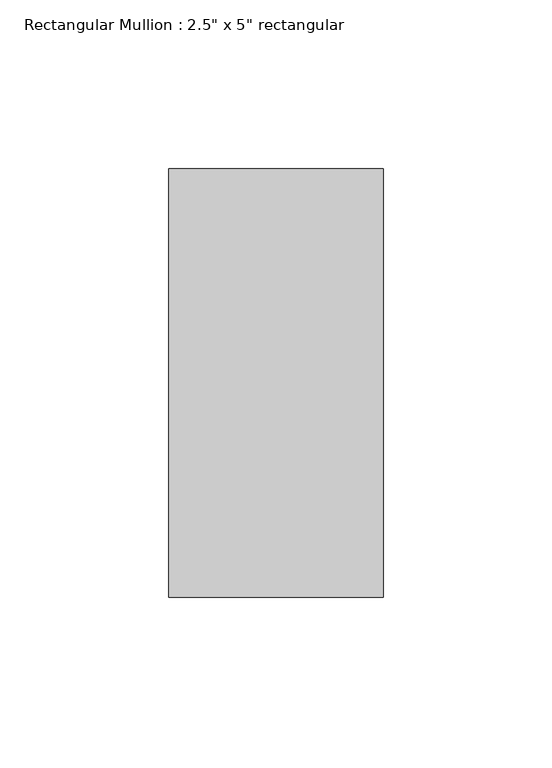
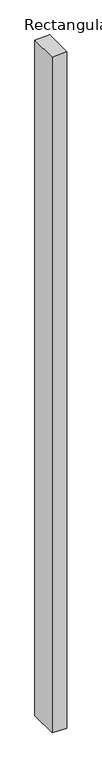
"""IFC4 building model written with IfcOpenShell, lengths in millimetres: member geometry."""

from ifc_helpers import new_model, si_unit, frame, origin, place, context, project, spatial, polyline, outline, extrude, source, transform, mapped, element, save


def member_046d3a24(model_context):
    return source(origin(), model_context, "Body", "SweptSolid", [
        extrude(outline(polyline([(0.0, 0.0), (-1.2446061, -63.5), (-3048.8464962, -63.5), (-3050.0892948, 0.0), (0.0, 0.0)])), frame((0.0, -63.5, 0.0), z_axis=(0.0, 1.0, 0.0), x_axis=(0.0, 0.0, 1.0)), (0.0, 0.0, 1.0), 127.0),
    ])


if __name__ == "__main__":
    model = new_model("IFC4")
    model_context = context("Model", 3, world=origin())
    ifc_project = project(units=[si_unit("LENGTHUNIT", "METRE", prefix="MILLI")], contexts=[model_context])
    site = spatial("IfcSite", under=ifc_project)
    building = spatial("IfcBuilding", under=site)
    placement = place(None, origin())
    member_shape = member_046d3a24(model_context)
    element("IfcMember", 1, ObjectType="Rectangular Mullion : 2.5\" x 5\" rectangular", at=placement, inside=building, context=model_context, shape_type="MappedRepresentation", body=[
        mapped(member_shape, transform((0.0, 0.0, 0.0), x_axis=(1.0, 0.0, 0.0), y_axis=(0.0, 1.0, 0.0), z_axis=(0.0, 0.0, 1.0))),
    ])
    save(model, "model.ifc")
